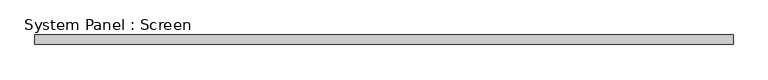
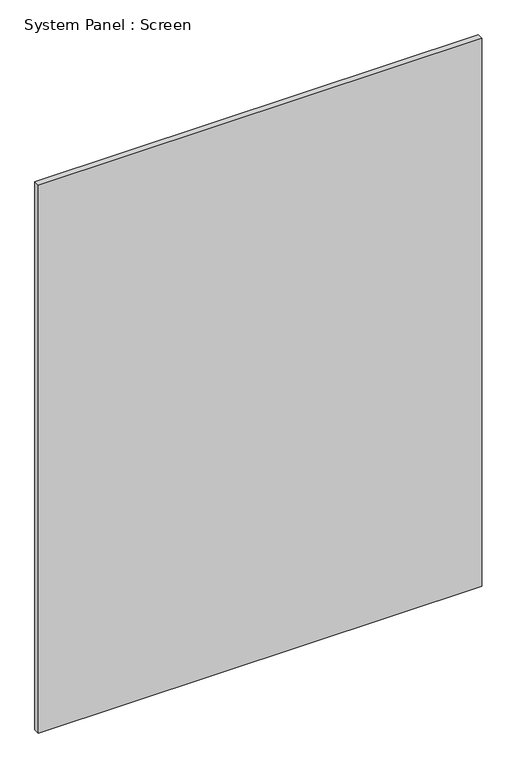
"""IFC4 building model written with IfcOpenShell, lengths in millimetres: plate geometry, System Panel : Screen."""

import ifcopenshell
import ifcopenshell.guid

model = None  # the IFC model being written
_history = None  # IfcOwnerHistory: only IFC2X3 demands one
_inside = {}  # id of a spatial element -> (the spatial element, [elements in it])
_under = {}  # id of a project, library or spatial element -> (it, [spatial elements below it])
_declared = {}  # id of a project -> (the project, [libraries it declares])
_typed = {}  # id of a type object -> (the type object, [elements of that type])
_made_of = {}  # id of a material, layer set ... -> (it, [elements and type objects made of it])


def new_model(schema):
    """Start an empty IFC model of exactly this schema.

    Asked for "IFC4X3", IfcOpenShell would pick the latest addendum, in which some entities
    have other attributes; the version numbers below select the first issue.
    IFC2X3 requires an IfcOwnerHistory on every rooted entity: one is made here for all.
    """
    global model, _history
    if schema == "IFC4X3":
        model = ifcopenshell.file(schema_version=(4, 3, 0, 0))
    else:
        model = ifcopenshell.file(schema=schema)
    _inside.clear()
    _under.clear()
    _declared.clear()
    _typed.clear()
    _made_of.clear()
    _history = None
    if model.schema == "IFC2X3":
        org = make("IfcOrganization", Name="unknown")
        user = make(
            "IfcPersonAndOrganization",
            ThePerson=make("IfcPerson", FamilyName="unknown"),
            TheOrganization=org,
        )
        app = make(
            "IfcApplication",
            ApplicationDeveloper=org,
            Version="unknown",
            ApplicationFullName="unknown",
            ApplicationIdentifier="unknown",
        )
        _history = make(
            "IfcOwnerHistory",
            OwningUser=user,
            OwningApplication=app,
            ChangeAction="ADDED",
            CreationDate=0,
        )
    return model


def make(cls, **values):
    """One entity of the class cls with the attributes given. An attribute that is None is left unset."""
    return model.create_entity(
        cls, **{name: value for name, value in values.items() if value is not None}
    )


def rooted(cls, **values):
    """An entity with a GlobalId (a new one), such as an element, a storey or a relation."""
    return make(cls, GlobalId=ifcopenshell.guid.new(), OwnerHistory=_history, **values)


def si_unit(unit_type, name, prefix=None):
    """IfcSIUnit, for example si_unit("LENGTHUNIT", "METRE", prefix="MILLI")."""
    return make("IfcSIUnit", UnitType=unit_type, Prefix=prefix, Name=name)


def assignment(units):
    """IfcUnitAssignment: the units of a project."""
    return None if units is None else make("IfcUnitAssignment", Units=units)


def point(xyz):
    """IfcCartesianPoint."""
    return None if xyz is None else make("IfcCartesianPoint", Coordinates=xyz)


def direction(xyz):
    """IfcDirection."""
    return None if xyz is None else make("IfcDirection", DirectionRatios=xyz)


def frame(location, z_axis=None, x_axis=None):
    """IfcAxis2Placement3D, a coordinate frame: its origin and axes. An axis left out is left unset."""
    return make(
        "IfcAxis2Placement3D",
        Location=point(location),
        Axis=direction(z_axis),
        RefDirection=direction(x_axis),
    )


def origin():
    """The frame at (0, 0, 0) with its axes left unset."""
    return frame((0.0, 0.0, 0.0))


def origin_with_axes():
    """The frame at (0, 0, 0) with the z axis (0, 0, 1) and the x axis (1, 0, 0) written out."""
    return frame((0.0, 0.0, 0.0), z_axis=(0.0, 0.0, 1.0), x_axis=(1.0, 0.0, 0.0))


def place(relative_to, where):
    """IfcLocalPlacement: puts the frame where relative to a parent placement (None: the world)."""
    return make(
        "IfcLocalPlacement", PlacementRelTo=relative_to, RelativePlacement=where
    )


def context(
    kind, dimensions, precision=None, world=None, true_north=None, identifier=None
):
    """IfcGeometricRepresentationContext, for example the 3D "Model" context."""
    return make(
        "IfcGeometricRepresentationContext",
        ContextIdentifier=identifier,
        ContextType=kind,
        CoordinateSpaceDimension=dimensions,
        Precision=precision,
        WorldCoordinateSystem=world,
        TrueNorth=true_north,
    )


def project(units=None, contexts=None):
    """IfcProject with its units and contexts."""
    return rooted(
        "IfcProject",
        Name="project",
        RepresentationContexts=contexts,
        UnitsInContext=assignment(units),
    )


def spatial(cls, under=None, at=None, **own):
    """A site, building, storey or space (cls), placed at a placement, below another one or the project."""
    s = rooted(cls, ObjectPlacement=at, **own)
    if under is not None:
        _under.setdefault(under.id(), (under, []))[1].append(s)
    return s


def polyline(points):
    """IfcPolyline through the points."""
    return make("IfcPolyline", Points=[point(p) for p in points])


def outline(outer, holes=None, kind="AREA"):
    """IfcArbitraryClosedProfileDef: a profile drawn as a closed curve; with holes, ...WithVoids."""
    if holes is None:
        return make("IfcArbitraryClosedProfileDef", ProfileType=kind, OuterCurve=outer)
    return make(
        "IfcArbitraryProfileDefWithVoids",
        ProfileType=kind,
        OuterCurve=outer,
        InnerCurves=holes,
    )


def extrude(swept, where, along, depth):
    """IfcExtrudedAreaSolid: the profile swept, set in the frame where, extruded along a direction by depth."""
    return make(
        "IfcExtrudedAreaSolid",
        SweptArea=swept,
        Position=where,
        ExtrudedDirection=direction(along),
        Depth=depth,
    )


def shape(context_of_items, identifier, shape_type, items):
    """IfcShapeRepresentation: the items that make up one representation, for example the "Body"."""
    return make(
        "IfcShapeRepresentation",
        ContextOfItems=context_of_items,
        RepresentationIdentifier=identifier,
        RepresentationType=shape_type,
        Items=items,
    )


def source(mapping_origin, context_of_items, identifier, shape_type, items):
    """IfcRepresentationMap: a shape defined once, which mapped items show again and again."""
    return make(
        "IfcRepresentationMap",
        MappingOrigin=mapping_origin,
        MappedRepresentation=shape(context_of_items, identifier, shape_type, items),
    )


def transform(
    local_origin,
    x_axis=None,
    y_axis=None,
    z_axis=None,
    scale=None,
    scale2=None,
    scale3=None,
    uniform=True,
):
    """IfcCartesianTransformationOperator3D, or its non-uniform kind. x_axis, y_axis, z_axis: its Axis1, 2, 3."""
    if uniform:
        return make(
            "IfcCartesianTransformationOperator3D",
            Axis1=direction(x_axis),
            Axis2=direction(y_axis),
            LocalOrigin=point(local_origin),
            Scale=scale,
            Axis3=direction(z_axis),
        )
    return make(
        "IfcCartesianTransformationOperator3DnonUniform",
        Axis1=direction(x_axis),
        Axis2=direction(y_axis),
        LocalOrigin=point(local_origin),
        Scale=scale,
        Axis3=direction(z_axis),
        Scale2=scale2,
        Scale3=scale3,
    )


def mapped(mapping_source, mapping_target):
    """IfcMappedItem: shows the shape of a source again, moved by a transform."""
    return make(
        "IfcMappedItem", MappingSource=mapping_source, MappingTarget=mapping_target
    )


def made_of(thing, what):
    """Note that an element or type object is made of a material, layer set ...; save() writes the relation."""
    if what is not None:
        _made_of.setdefault(what.id(), (what, []))[1].append(thing)
    return thing


def element(
    cls,
    number,
    at=None,
    inside=None,
    cuts=None,
    type_object=None,
    material=None,
    context=None,
    identifier="Body",
    shape_type=None,
    held_by="IfcProductDefinitionShape",
    body=None,
    shapes=None,
    **own,
):
    """One element of the class cls, such as IfcWall. Its Tag is "e" and its number.

    at: its placement. inside: the storey or other place that contains it. cuts: it is an
    opening in that element (IfcRelVoidsElement). A single representation is given by context,
    identifier, shape_type and body (its items); several are given by shapes. held_by: the class
    of the entity that holds the representations. save() writes the other relations.
    """
    e = rooted(cls, Tag="e%d" % number, ObjectPlacement=at, **own)
    if body is not None:
        shapes = [shape(context, identifier, shape_type, body)]
    if shapes is not None:
        e.Representation = make(held_by, Representations=shapes)
    if inside is not None:
        _inside.setdefault(inside.id(), (inside, []))[1].append(e)
    if cuts is not None:
        rooted(
            "IfcRelVoidsElement", RelatingBuildingElement=cuts, RelatedOpeningElement=e
        )
    if type_object is not None:
        _typed.setdefault(type_object.id(), (type_object, []))[1].append(e)
    return made_of(e, material)


def aggregate(whole, parts):
    """IfcRelAggregates: a whole, such as a stair, and the parts it consists of."""
    return rooted("IfcRelAggregates", RelatingObject=whole, RelatedObjects=parts)


def save(model, path):
    """Write the relations noted so far, then the file.

    IfcRelAggregates (storeys below a building ...), IfcRelContainedInSpatialStructure (elements
    in a storey), IfcRelDefinesByType, IfcRelAssociatesMaterial and IfcRelDeclares: one each for
    every whole, place, type object, material and project.
    """
    for whole, parts in _under.values():
        aggregate(whole, parts)
    for where, things in _inside.values():
        rooted(
            "IfcRelContainedInSpatialStructure",
            RelatedElements=things,
            RelatingStructure=where,
        )
    for kind, things in _typed.values():
        rooted("IfcRelDefinesByType", RelatedObjects=things, RelatingType=kind)
    for what, things in _made_of.values():
        rooted("IfcRelAssociatesMaterial", RelatedObjects=things, RelatingMaterial=what)
    for by, libraries in _declared.values():
        rooted("IfcRelDeclares", RelatingContext=by, RelatedDefinitions=libraries)
    model.write(path)


def system_panel_screen_7c602fd6(model_context):
    return source(origin(), model_context, "Body", "SweptSolid", [
        extrude(outline(polyline([(929.2844, -12.7), (-929.2844, -12.7), (-929.2844, 12.7), (929.2844, 12.7), (929.2844, -12.7)])), origin_with_axes(), (0.0, 0.0, 1.0), 2428.24),
    ])


if __name__ == "__main__":
    model = new_model("IFC4")
    model_context = context("Model", 3, world=origin())
    ifc_project = project(units=[si_unit("LENGTHUNIT", "METRE", prefix="MILLI")], contexts=[model_context])
    site = spatial("IfcSite", under=ifc_project)
    building = spatial("IfcBuilding", under=site)
    placement = place(None, origin())
    system_panel_screen_shape = system_panel_screen_7c602fd6(model_context)
    element("IfcPlate", 1, ObjectType="System Panel : Screen", at=placement, inside=building, context=model_context, shape_type="MappedRepresentation", body=[
        mapped(system_panel_screen_shape, transform((0.0, 0.0, 0.0), x_axis=(1.0, 0.0, 0.0), y_axis=(0.0, 1.0, 0.0), z_axis=(0.0, 0.0, 1.0))),
    ])
    save(model, "model.ifc")
